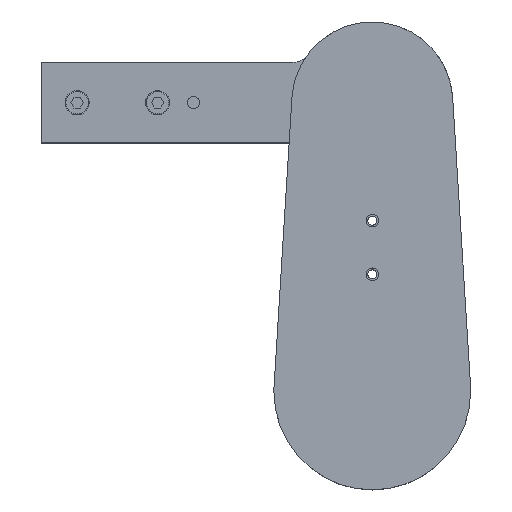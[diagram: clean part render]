
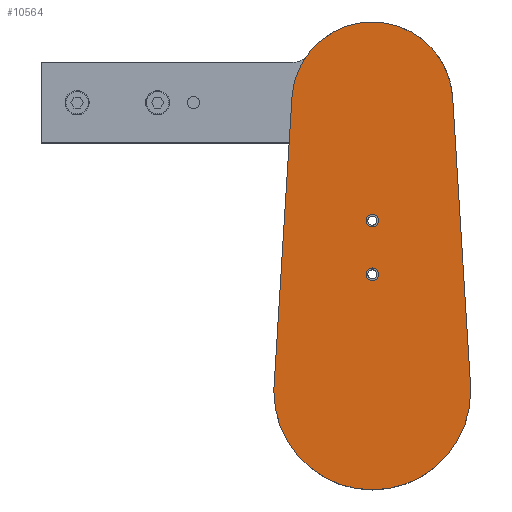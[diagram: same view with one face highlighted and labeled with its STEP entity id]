
A CAD part, top view. The second image highlights one B-rep face of the part: STEP entity #10564.
In plain terms, the highlighted planar face has unit normal (0, 0, 1) as drawn and (0, 0, -1) by its records, which use the part's own axes.
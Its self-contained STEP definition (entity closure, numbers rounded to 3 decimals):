
#1170 = EDGE_CURVE ( 'NONE', #47657, #15604, #46488, .T. ) ;
#1276 = ORIENTED_EDGE ( 'NONE', *, *, #6004, .F. ) ;
#4364 = CARTESIAN_POINT ( 'NONE',  ( 55., 0., 0. ) ) ;
#4370 = VERTEX_POINT ( 'NONE', #4364 ) ;
#5365 = DIRECTION ( 'NONE',  ( 1., 0., 0. ) ) ;
#5396 = DIRECTION ( 'NONE',  ( 0., 0., -1. ) ) ;
#6004 = EDGE_CURVE ( 'NONE', #15604, #4370, #30189, .T. ) ;
#6774 = ORIENTED_EDGE ( 'NONE', *, *, #78063, .F. ) ;
#7031 = ORIENTED_EDGE ( 'NONE', *, *, #22619, .F. ) ;
#7432 = VECTOR ( 'NONE', #41173, 1000. ) ;
#8811 = CIRCLE ( 'NONE', #28914, 3.5 ) ;
#10042 = VERTEX_POINT ( 'NONE', #49080 ) ;
#10564 = ADVANCED_FACE ( 'NONE', ( #78440, #28257, #34165 ), #17444, .F. ) ;
#11964 = AXIS2_PLACEMENT_3D ( 'NONE', #18697, #18159, #31577 ) ;
#14017 = ORIENTED_EDGE ( 'NONE', *, *, #17959, .F. ) ;
#14198 = DIRECTION ( 'NONE',  ( 1., 0., 0. ) ) ;
#14538 = CARTESIAN_POINT ( 'NONE',  ( 0., 95.5, 0. ) ) ;
#15604 = VERTEX_POINT ( 'NONE', #23542 ) ;
#16708 = DIRECTION ( 'NONE',  ( 1., 0., 0. ) ) ;
#16893 = CARTESIAN_POINT ( 'NONE',  ( -44.914, 164.286, 0. ) ) ;
#17444 = PLANE ( 'NONE',  #44103 ) ;
#17896 = ORIENTED_EDGE ( 'NONE', *, *, #56745, .F. ) ;
#17959 = EDGE_CURVE ( 'NONE', #26706, #52423, #40815, .T. ) ;
#18159 = DIRECTION ( 'NONE',  ( 0., 0., 1. ) ) ;
#18697 = CARTESIAN_POINT ( 'NONE',  ( 0., 0., 0. ) ) ;
#18874 = ORIENTED_EDGE ( 'NONE', *, *, #37041, .F. ) ;
#19204 = EDGE_LOOP ( 'NONE', ( #72944, #17896 ) ) ;
#19434 = ORIENTED_EDGE ( 'NONE', *, *, #46242, .F. ) ;
#19805 = CARTESIAN_POINT ( 'NONE',  ( 3.5, 65.5, 0. ) ) ;
#20731 = CIRCLE ( 'NONE', #34255, 3.5 ) ;
#20849 = DIRECTION ( 'NONE',  ( 0., 0., -1. ) ) ;
#22619 = EDGE_CURVE ( 'NONE', #4370, #26706, #76773, .T. ) ;
#23198 = DIRECTION ( 'NONE',  ( -0.062, -0.998, 0. ) ) ;
#23542 = CARTESIAN_POINT ( 'NONE',  ( -55., 0., 0. ) ) ;
#26706 = VERTEX_POINT ( 'NONE', #29121 ) ;
#27132 = LINE ( 'NONE', #16893, #56548 ) ;
#27205 = DIRECTION ( 'NONE',  ( 0., 0., 1. ) ) ;
#28257 = FACE_BOUND ( 'NONE', #19204, .T. ) ;
#28914 = AXIS2_PLACEMENT_3D ( 'NONE', #14538, #20849, #58434 ) ;
#29121 = CARTESIAN_POINT ( 'NONE',  ( 54.894, 3.406, 0. ) ) ;
#30189 = CIRCLE ( 'NONE', #39973, 55. ) ;
#31375 = CARTESIAN_POINT ( 'NONE',  ( 0., 0., 0. ) ) ;
#31577 = DIRECTION ( 'NONE',  ( 1., 0., 0. ) ) ;
#32671 = CARTESIAN_POINT ( 'NONE',  ( 0., 161.5, 0. ) ) ;
#34047 = CARTESIAN_POINT ( 'NONE',  ( 44.914, 164.286, 0. ) ) ;
#34165 = FACE_OUTER_BOUND ( 'NONE', #67559, .T. ) ;
#34255 = AXIS2_PLACEMENT_3D ( 'NONE', #66684, #35382, #16708 ) ;
#35382 = DIRECTION ( 'NONE',  ( 0., 0., -1. ) ) ;
#37041 = EDGE_CURVE ( 'NONE', #10042, #40001, #70674, .T. ) ;
#37714 = DIRECTION ( 'NONE',  ( 0., 0., 1. ) ) ;
#38630 = CARTESIAN_POINT ( 'NONE',  ( 0., 95.5, 0. ) ) ;
#38727 = EDGE_CURVE ( 'NONE', #65699, #47657, #27132, .T. ) ;
#39436 = DIRECTION ( 'NONE',  ( 0., 0., -1. ) ) ;
#39973 = AXIS2_PLACEMENT_3D ( 'NONE', #79529, #74247, #62355 ) ;
#40001 = VERTEX_POINT ( 'NONE', #51804 ) ;
#40815 = LINE ( 'NONE', #34047, #7432 ) ;
#41173 = DIRECTION ( 'NONE',  ( -0.062, 0.998, 0. ) ) ;
#44103 = AXIS2_PLACEMENT_3D ( 'NONE', #68194, #37714, #5365 ) ;
#44861 = DIRECTION ( 'NONE',  ( 0., 0., 1. ) ) ;
#45223 = CARTESIAN_POINT ( 'NONE',  ( -44.914, 164.286, 0. ) ) ;
#45344 = DIRECTION ( 'NONE',  ( 1., 0., 0. ) ) ;
#46064 = AXIS2_PLACEMENT_3D ( 'NONE', #32671, #27205, #45344 ) ;
#46242 = EDGE_CURVE ( 'NONE', #52423, #65699, #67926, .T. ) ;
#46488 = CIRCLE ( 'NONE', #11964, 55. ) ;
#47657 = VERTEX_POINT ( 'NONE', #80293 ) ;
#49080 = CARTESIAN_POINT ( 'NONE',  ( -3.5, 95.5, 0. ) ) ;
#49286 = DIRECTION ( 'NONE',  ( 1., 0., 0. ) ) ;
#49833 = CARTESIAN_POINT ( 'NONE',  ( 0., 65.5, 0. ) ) ;
#49973 = EDGE_CURVE ( 'NONE', #70409, #64052, #59966, .T. ) ;
#51656 = CARTESIAN_POINT ( 'NONE',  ( -3.5, 65.5, 0. ) ) ;
#51804 = CARTESIAN_POINT ( 'NONE',  ( 3.5, 95.5, 0. ) ) ;
#52423 = VERTEX_POINT ( 'NONE', #58984 ) ;
#56547 = AXIS2_PLACEMENT_3D ( 'NONE', #38630, #39436, #14198 ) ;
#56548 = VECTOR ( 'NONE', #23198, 1000. ) ;
#56745 = EDGE_CURVE ( 'NONE', #64052, #70409, #20731, .T. ) ;
#58434 = DIRECTION ( 'NONE',  ( 1., 0., 0. ) ) ;
#58984 = CARTESIAN_POINT ( 'NONE',  ( 44.914, 164.286, 0. ) ) ;
#59966 = CIRCLE ( 'NONE', #63741, 3.5 ) ;
#62355 = DIRECTION ( 'NONE',  ( 1., 0., 0. ) ) ;
#63741 = AXIS2_PLACEMENT_3D ( 'NONE', #49833, #5396, #49286 ) ;
#64052 = VERTEX_POINT ( 'NONE', #51656 ) ;
#65699 = VERTEX_POINT ( 'NONE', #45223 ) ;
#66684 = CARTESIAN_POINT ( 'NONE',  ( 0., 65.5, 0. ) ) ;
#67559 = EDGE_LOOP ( 'NONE', ( #19434, #14017, #7031, #1276, #71818, #79135 ) ) ;
#67600 = DIRECTION ( 'NONE',  ( 1., 0., 0. ) ) ;
#67926 = CIRCLE ( 'NONE', #46064, 45. ) ;
#68194 = CARTESIAN_POINT ( 'NONE',  ( 0., 161.5, 0. ) ) ;
#70409 = VERTEX_POINT ( 'NONE', #19805 ) ;
#70674 = CIRCLE ( 'NONE', #56547, 3.5 ) ;
#71818 = ORIENTED_EDGE ( 'NONE', *, *, #1170, .F. ) ;
#72383 = AXIS2_PLACEMENT_3D ( 'NONE', #31375, #44861, #67600 ) ;
#72944 = ORIENTED_EDGE ( 'NONE', *, *, #49973, .F. ) ;
#74247 = DIRECTION ( 'NONE',  ( 0., 0., 1. ) ) ;
#76773 = CIRCLE ( 'NONE', #72383, 55. ) ;
#78063 = EDGE_CURVE ( 'NONE', #40001, #10042, #8811, .T. ) ;
#78440 = FACE_BOUND ( 'NONE', #79034, .T. ) ;
#79034 = EDGE_LOOP ( 'NONE', ( #6774, #18874 ) ) ;
#79135 = ORIENTED_EDGE ( 'NONE', *, *, #38727, .F. ) ;
#79529 = CARTESIAN_POINT ( 'NONE',  ( 0., 0., 0. ) ) ;
#80293 = CARTESIAN_POINT ( 'NONE',  ( -54.894, 3.406, 0. ) ) ;
